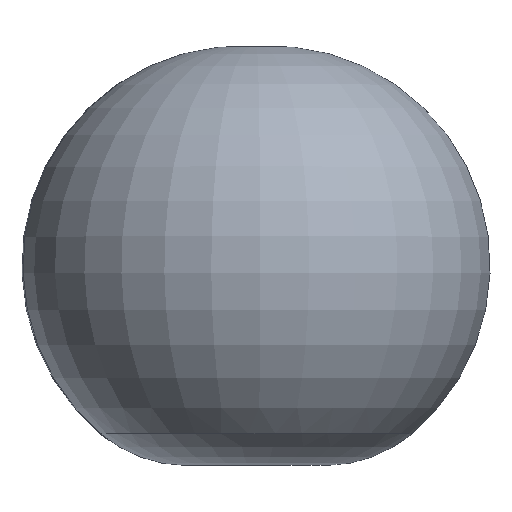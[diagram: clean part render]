
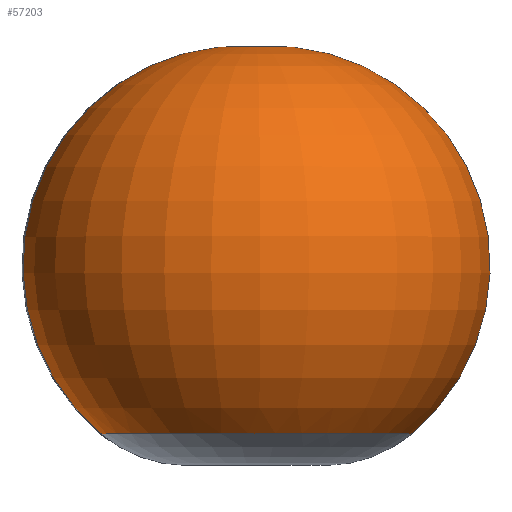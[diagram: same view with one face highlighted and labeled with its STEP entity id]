
A CAD part, top view. The second image highlights one B-rep face of the part: STEP entity #57203.
In plain terms, the highlighted toroidal (fillet/blend) face has major radius 150 mm and minor radius 2150.4 mm.
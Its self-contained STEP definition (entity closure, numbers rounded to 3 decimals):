
#890 = CARTESIAN_POINT ( 'NONE',  ( 0., 670., -150. ) ) ;
#2454 = ORIENTED_EDGE ( 'NONE', *, *, #146868, .T. ) ;
#5418 = EDGE_CURVE ( 'NONE', #29055, #219624, #215934, .T. ) ;
#8850 = CIRCLE ( 'NONE', #141911, 5. ) ;
#21161 = EDGE_CURVE ( 'NONE', #159354, #264001, #8850, .T. ) ;
#29055 = VERTEX_POINT ( 'NONE', #165153 ) ;
#32843 = TOROIDAL_SURFACE ( 'NONE', #259972, 150., 2150.4 ) ;
#46298 = DIRECTION ( 'NONE',  ( -1., 0., 0. ) ) ;
#57203 = ADVANCED_FACE ( 'NONE', ( #189184 ), #32843, .T. ) ;
#60309 = CARTESIAN_POINT ( 'NONE',  ( 0., 670., 150. ) ) ;
#63830 = DIRECTION ( 'NONE',  ( 0., 0., 1. ) ) ;
#65643 = CARTESIAN_POINT ( 'NONE',  ( 0., 2815.506, 5. ) ) ;
#67030 = DIRECTION ( 'NONE',  ( 0., 0., -1. ) ) ;
#84877 = CIRCLE ( 'NONE', #166967, 2150.4 ) ;
#91914 = ORIENTED_EDGE ( 'NONE', *, *, #5418, .F. ) ;
#96696 = DIRECTION ( 'NONE',  ( 0., 0., -1. ) ) ;
#104685 = DIRECTION ( 'NONE',  ( 0., -1., 0. ) ) ;
#111168 = AXIS2_PLACEMENT_3D ( 'NONE', #60309, #224108, #96696 ) ;
#115715 = ORIENTED_EDGE ( 'NONE', *, *, #151327, .F. ) ;
#119855 = CIRCLE ( 'NONE', #111168, 2150.4 ) ;
#123382 = CARTESIAN_POINT ( 'NONE',  ( 0., 2815.506, 0. ) ) ;
#134554 = ORIENTED_EDGE ( 'NONE', *, *, #21161, .T. ) ;
#141911 = AXIS2_PLACEMENT_3D ( 'NONE', #123382, #225299, #163622 ) ;
#142492 = CARTESIAN_POINT ( 'NONE',  ( 0., -977.302, 0. ) ) ;
#146868 = EDGE_CURVE ( 'NONE', #264001, #219624, #84877, .T. ) ;
#151327 = EDGE_CURVE ( 'NONE', #159354, #29055, #119855, .T. ) ;
#159354 = VERTEX_POINT ( 'NONE', #65643 ) ;
#159903 = DIRECTION ( 'NONE',  ( 0., 0., -1. ) ) ;
#161216 = DIRECTION ( 'NONE',  ( 0., -1., 0. ) ) ;
#163622 = DIRECTION ( 'NONE',  ( 0., 0., -1. ) ) ;
#165153 = CARTESIAN_POINT ( 'NONE',  ( 0., -977.302, 1532.25 ) ) ;
#166967 = AXIS2_PLACEMENT_3D ( 'NONE', #890, #46298, #63830 ) ;
#189184 = FACE_OUTER_BOUND ( 'NONE', #219750, .T. ) ;
#215934 = CIRCLE ( 'NONE', #224546, 1532.25 ) ;
#217736 = CARTESIAN_POINT ( 'NONE',  ( 0., -977.302, -1532.25 ) ) ;
#219624 = VERTEX_POINT ( 'NONE', #217736 ) ;
#219750 = EDGE_LOOP ( 'NONE', ( #115715, #134554, #2454, #91914 ) ) ;
#224108 = DIRECTION ( 'NONE',  ( 1., 0., 0. ) ) ;
#224546 = AXIS2_PLACEMENT_3D ( 'NONE', #142492, #161216, #159903 ) ;
#225299 = DIRECTION ( 'NONE',  ( 0., -1., 0. ) ) ;
#230709 = CARTESIAN_POINT ( 'NONE',  ( 0., 2815.506, -5. ) ) ;
#250822 = CARTESIAN_POINT ( 'NONE',  ( 0., 670., 0. ) ) ;
#259972 = AXIS2_PLACEMENT_3D ( 'NONE', #250822, #104685, #67030 ) ;
#264001 = VERTEX_POINT ( 'NONE', #230709 ) ;
